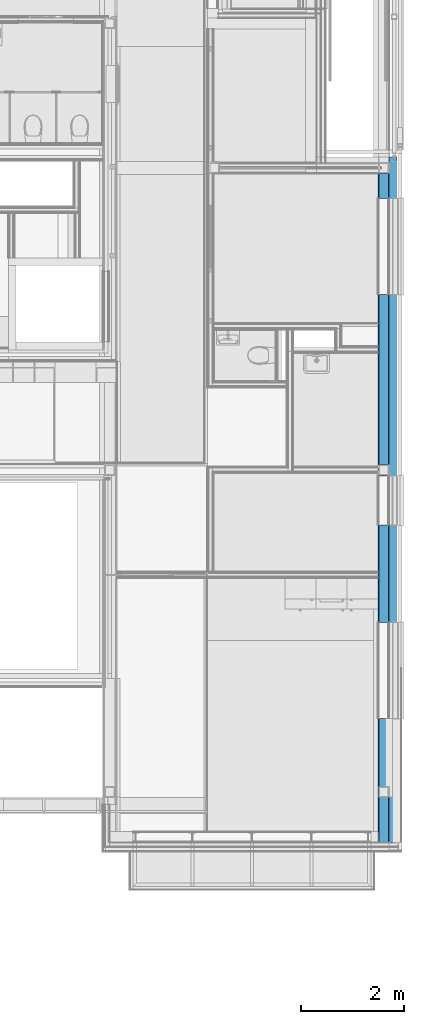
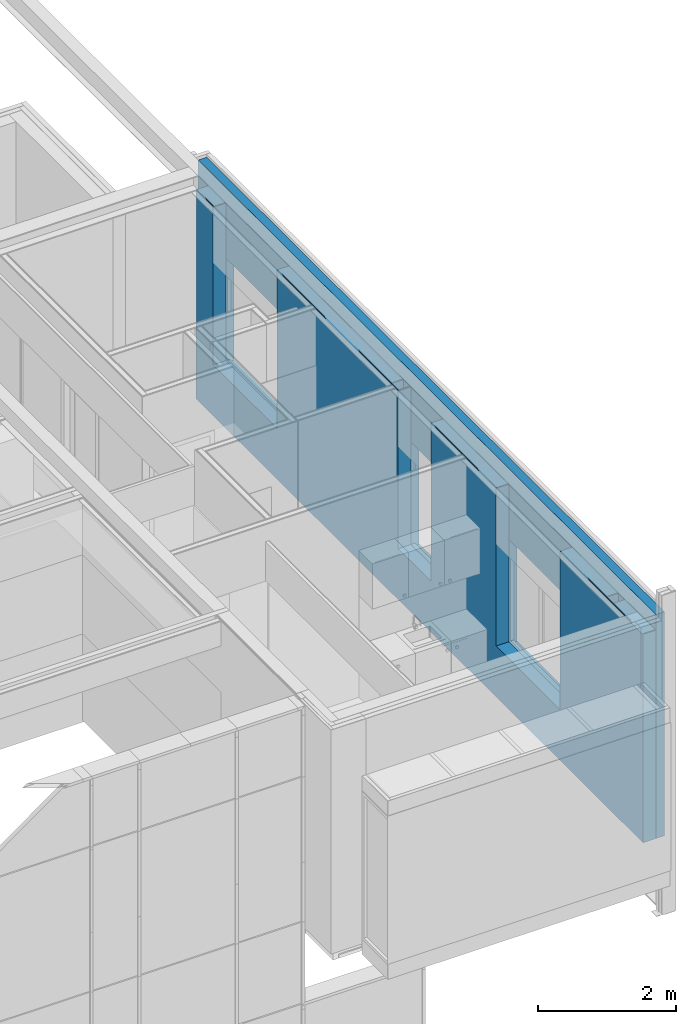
# One storey, part 71 of 137: 2 building element parts, 3 openings, 1 element without a shape of its own.
"""IFC2X3 building model written with IfcOpenShell, lengths in millimetres."""

from ifc_helpers import new_model, entity, si_unit, converted_unit, derived_unit, money_unit, direction, frame, origin_with_axes, place, context, subcontext, project, spatial, faceted_brep, material, type_object, element, aggregate, save


model = new_model("IFC2X3")

# Units and contexts
model_context = context("Model", 3, precision=0.01, world=origin_with_axes(), true_north=direction((0.0, 1.0)))
body_context = subcontext(model_context, "Body", "Model", "MODEL_VIEW")
ifc_project = project(units=[si_unit("LENGTHUNIT", "METRE", prefix="MILLI"), si_unit("AREAUNIT", "SQUARE_METRE"), si_unit("VOLUMEUNIT", "CUBIC_METRE"), converted_unit("PLANEANGLEUNIT", "DEGREE", entity("IfcPlaneAngleMeasure", 0.0174532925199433), si_unit("PLANEANGLEUNIT", "RADIAN"), dimensions=[0, 0, 0, 0, 0, 0, 0]), money_unit("EUR"), converted_unit("TIMEUNIT", "Year", entity("IfcTimeMeasure", 31556926.0), si_unit("TIMEUNIT", "SECOND"), dimensions=[0, 0, 1, 0, 0, 0, 0]), si_unit("MASSUNIT", "GRAM", prefix="KILO"), si_unit("THERMODYNAMICTEMPERATUREUNIT", "DEGREE_CELSIUS"), si_unit("LUMINOUSINTENSITYUNIT", "LUMEN"), si_unit("ENERGYUNIT", "JOULE", prefix="MEGA"), derived_unit("THERMALCONDUCTANCEUNIT", [(si_unit("POWERUNIT", "WATT"), 1), (si_unit("LENGTHUNIT", "METRE"), -1), (si_unit("THERMODYNAMICTEMPERATUREUNIT", "KELVIN"), -1)]), derived_unit("SPECIFICHEATCAPACITYUNIT", [(si_unit("ENERGYUNIT", "JOULE"), 1), (si_unit("MASSUNIT", "GRAM", prefix="KILO"), -1), (si_unit("THERMODYNAMICTEMPERATUREUNIT", "KELVIN"), -1)]), derived_unit("MASSDENSITYUNIT", [(si_unit("MASSUNIT", "GRAM", prefix="KILO"), 1), (si_unit("VOLUMEUNIT", "CUBIC_METRE"), -1)])], contexts=[model_context])

# Site, building, storey
site_placement = place(None, origin_with_axes())
site = spatial("IfcSite", under=ifc_project, at=site_placement, Name="Site", CompositionType="ELEMENT")
building_placement = place(site_placement, origin_with_axes())
building = spatial("IfcBuilding", under=site, at=building_placement, Name="Naam gebouw", CompositionType="ELEMENT")
storey_placement = place(building_placement, frame((0.0, 0.0, 3960.0), z_axis=(0.0, 0.0, 1.0), x_axis=(1.0, 0.0, 0.0)))
storey = spatial("IfcBuildingStorey", under=building, at=storey_placement, Name="1e verdieping", CompositionType="ELEMENT", Elevation=3960.0)

# Wall, openings, building element parts
wall_type = type_object("IfcWallType", Name="21 Buitenwand spouwmuur 464", PredefinedType="NOTDEFINED")
wall_placement = place(storey_placement, frame((29899.99999999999, 16749.99778166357, -100.0000000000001), z_axis=(0.0, 0.0, 1.0), x_axis=(0.0, -1.0, 0.0)))
wall = element("IfcWall", 1, at=wall_placement, inside=storey, type_object=wall_type, Name="21_Wand-x")
opening_1_placement = place(wall_placement, frame((1619.000000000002, 0.0, 899.9999999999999), z_axis=(0.0, 0.0, 1.0), x_axis=(1.0, 0.0, 0.0)))
element("IfcOpeningElement", 2, at=opening_1_placement, cuts=wall, Name="_Merk BD", context=body_context, shape_type="Brep", body=[
    faceted_brep([(925.0000000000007, 0.0, 1810.0), (-925.0000000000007, 0.0, 1810.0), (-925.0000000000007, 0.0, 2810.0), (925.0000000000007, 0.0, 2810.0), (925.0000000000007, 71.99999999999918, 1810.0), (-925.0000000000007, 71.99999999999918, 1810.0), (-925.0000000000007, 0.0, 0.0), (-925.0000000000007, -214.9999999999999, 0.0), (-925.0000000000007, -214.9999999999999, 2810.0), (925.0000000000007, -214.9999999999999, 2810.0), (925.0000000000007, 0.0, 0.0), (925.0000000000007, -214.9999999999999, 0.0), (925.0000000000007, 71.99999999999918, 0.0), (935.0000000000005, 71.99999999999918, 1810.0), (935.0000000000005, 251.0000000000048, 1810.0), (-935.0000000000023, 251.0000000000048, 1810.0), (-935.0000000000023, 71.99999999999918, 1810.0), (-925.0000000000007, 71.99999999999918, 0.0), (-935.0000000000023, 71.99999999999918, -44.99999999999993), (935.0000000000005, 71.99999999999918, -44.99999999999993), (935.0000000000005, 251.0000000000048, -44.99999999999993), (-935.0000000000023, 251.0000000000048, -44.99999999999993)], [[[0, 1, 2, 3]], [[1, 0, 4, 5]], [[1, 6, 7, 8, 2]], [[3, 2, 8, 9]], [[10, 0, 3, 9, 11]], [[0, 10, 12, 4]], [[5, 4, 13, 14, 15, 16]], [[6, 1, 5, 17]], [[10, 11, 7, 6, 17, 12]], [[8, 7, 11, 9]], [[17, 5, 16, 18, 19, 13, 4, 12]], [[13, 19, 20, 14]], [[14, 20, 21, 15]], [[18, 16, 15, 21]], [[19, 18, 21, 20]]]),
])
opening_2_placement = place(wall_placement, frame((9819.0, 0.0, 899.9999999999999), z_axis=(0.0, 0.0, 1.0), x_axis=(1.0, 0.0, 0.0)))
element("IfcOpeningElement", 3, at=opening_2_placement, cuts=wall, Name="_Merk BD", context=body_context, shape_type="Brep", body=[
    faceted_brep([(924.9999999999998, 0.0, 1810.0), (-924.9999999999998, 0.0, 1810.0), (-924.9999999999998, 0.0, 2810.0), (924.9999999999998, 0.0, 2810.0), (924.9999999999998, 71.99999999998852, 1810.0), (-924.9999999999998, 71.99999999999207, 1810.0), (-924.9999999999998, 0.0, 0.0), (-924.9999999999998, -215.0000000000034, 0.0), (-924.9999999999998, -215.0000000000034, 2810.0), (924.9999999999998, -215.000000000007, 2810.0), (924.9999999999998, 0.0, 0.0), (924.9999999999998, -215.000000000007, 0.0), (924.9999999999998, 71.99999999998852, 0.0), (935.0000000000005, 71.99999999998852, 1810.0), (935.0000000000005, 250.9999999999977, 1810.0), (-934.9999999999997, 251.0000000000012, 1810.0), (-934.9999999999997, 71.99999999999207, 1810.0), (-924.9999999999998, 71.99999999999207, 0.0), (-934.9999999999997, 71.99999999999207, -44.99999999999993), (935.0000000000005, 71.99999999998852, -44.99999999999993), (935.0000000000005, 250.9999999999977, -44.99999999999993), (-934.9999999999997, 251.0000000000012, -44.99999999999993)], [[[0, 1, 2, 3]], [[1, 0, 4, 5]], [[1, 6, 7, 8, 2]], [[3, 2, 8, 9]], [[10, 0, 3, 9, 11]], [[0, 10, 12, 4]], [[5, 4, 13, 14, 15, 16]], [[6, 1, 5, 17]], [[10, 11, 7, 6, 17, 12]], [[8, 7, 11, 9]], [[17, 5, 16, 18, 19, 13, 4, 12]], [[13, 19, 20, 14]], [[14, 20, 21, 15]], [[18, 16, 15, 21]], [[19, 18, 21, 20]]]),
])
opening_3_placement = place(wall_placement, frame((6529.997671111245, 0.0, 899.9999999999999), z_axis=(0.0, 0.0, 1.0), x_axis=(1.0, 0.0, 0.0)))
element("IfcOpeningElement", 4, at=opening_3_placement, cuts=wall, Name="_Merk BE", context=body_context, shape_type="Brep", body=[
    faceted_brep([(474.9999999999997, 0.0, 1810.0), (-474.9999999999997, 0.0, 1810.0), (-474.9999999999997, 0.0, 2810.0), (474.9999999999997, 0.0, 2810.0), (474.9999999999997, 71.99999999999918, 1810.0), (-474.9999999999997, 71.99999999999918, 1810.0), (-474.9999999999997, 0.0, 0.0), (-474.9999999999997, -214.9999999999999, 0.0), (-474.9999999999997, -214.9999999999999, 2810.0), (474.9999999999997, -214.9999999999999, 2810.0), (474.9999999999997, 0.0, 0.0), (474.9999999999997, -214.9999999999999, 0.0), (474.9999999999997, 71.99999999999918, 0.0), (484.9999999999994, 71.99999999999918, 1810.0), (484.9999999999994, 251.0000000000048, 1810.0), (-484.9999999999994, 251.0000000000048, 1810.0), (-484.9999999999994, 71.99999999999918, 1810.0), (-474.9999999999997, 71.99999999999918, 0.0), (-484.9999999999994, 71.99999999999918, -44.99999999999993), (484.9999999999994, 71.99999999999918, -44.99999999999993), (484.9999999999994, 251.0000000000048, -44.99999999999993), (-484.9999999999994, 251.0000000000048, -44.99999999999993)], [[[0, 1, 2, 3]], [[1, 0, 4, 5]], [[1, 6, 7, 8, 2]], [[3, 2, 8, 9]], [[10, 0, 3, 9, 11]], [[0, 10, 12, 4]], [[5, 4, 13, 14, 15, 16]], [[6, 1, 5, 17]], [[10, 11, 7, 6, 17, 12]], [[8, 7, 11, 9]], [[17, 5, 16, 18, 19, 13, 4, 12]], [[13, 19, 20, 14]], [[14, 20, 21, 15]], [[18, 16, 15, 21]], [[19, 18, 21, 20]]]),
])
ifc_material_1 = material(Name="Isolatie - Steenwol zacht")
building_element_part_1_placement = place(wall_placement, origin_with_axes())
building_element_part_1 = element("IfcBuildingElementPart", 5, at=building_element_part_1_placement, material=ifc_material_1, Name="Isolatie - Steenwol zacht", context=body_context, shape_type="Brep", body=[
    faceted_brep([(13149.99778255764, 138.0000473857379, 3960.000001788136), (13153.99778106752, 138.0000473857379, 3960.0), (13153.99781102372, 144.999999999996, 3960.0), (-109.9999999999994, 144.9999999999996, 3960.0), (-109.9999999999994, 0.9999995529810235, 3960.000001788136), (13149.99778255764, 0.9999995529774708, 3960.000001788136), (13149.99778255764, 138.0000473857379, 0.0), (13153.99778106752, 138.0000473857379, 0.0), (13153.99781102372, 144.999999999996, 0.0), (-109.9999999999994, 144.9999999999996, 820.0000000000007), (0.0, 144.9999999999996, 820.0000000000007), (0.0, 144.9999999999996, 825.0000000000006), (-109.9999999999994, 144.9999999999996, 825.0000000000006), (-25.00206540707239, 144.9999999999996, 0.0), (-25.00206540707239, 144.9999999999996, 725.000000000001), (0.0, 144.9999999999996, 725.000000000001), (0.0, 144.9999999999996, 730.0000000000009), (-109.9999999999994, 144.9999999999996, 730.0000000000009), (2554.000000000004, 144.9999999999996, 855.0), (2554.000000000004, 144.9999999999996, 2710.0), (684.000000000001, 144.9999999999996, 2710.0), (684.000000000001, 144.9999999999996, 855.0), (8884.000000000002, 144.9999999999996, 2710.0), (8884.000000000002, 144.9999999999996, 855.0), (10754.0, 144.999999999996, 855.0), (10754.0, 144.999999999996, 2710.0), (7014.997671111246, 144.9999999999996, 855.0), (7014.997671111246, 144.9999999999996, 2710.0), (6044.997671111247, 144.9999999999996, 2710.0), (6044.997671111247, 144.9999999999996, 855.0), (-109.9999999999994, 0.0, 0.0), (-109.9999999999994, 0.0, 3685.000001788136), (-109.9999999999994, 15.99999955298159, 3685.000001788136), (-109.9999999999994, 15.99999955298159, 3695.000001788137), (-109.9999999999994, 0.9999995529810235, 3695.000001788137), (-109.9999999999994, 49.99999999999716, 825.0000000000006), (-109.9999999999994, 49.99999999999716, 0.0), (13149.99778255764, 0.9999995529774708, 3695.000001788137), (13149.99778255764, 15.99999955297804, 3695.000001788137), (13149.99778255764, 15.99999955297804, 3685.000001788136), (13149.99778255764, 0.0, 3685.000001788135), (13149.99778255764, 0.0, 0.0), (-25.00206540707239, 49.99999999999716, 0.0), (-109.9999999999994, 54.99999999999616, 820.0000000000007), (0.0, 54.99999999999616, 820.0000000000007), (0.0, 49.99999999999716, 725.000000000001), (0.0, 49.99999999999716, 825.0000000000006), (0.0, 54.99999999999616, 730.0000000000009), (-25.00206540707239, 49.99999999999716, 725.000000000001), (-109.9999999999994, 54.99999999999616, 730.0000000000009), (2554.000000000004, 71.99999999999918, 855.0), (2554.000000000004, 71.99999999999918, 2710.0), (2544.000000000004, 71.99999999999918, 2710.0), (694.0000000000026, 71.99999999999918, 2710.0), (684.000000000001, 71.99999999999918, 2710.0), (684.000000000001, 71.99999999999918, 855.0), (8884.000000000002, 71.99999999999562, 2710.0), (8884.000000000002, 71.99999999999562, 855.0), (10754.0, 71.99999999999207, 855.0), (10754.0, 71.99999999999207, 2710.0), (10744.0, 71.99999999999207, 2710.0), (8894.000000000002, 71.99999999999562, 2710.0), (7014.997671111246, 71.99999999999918, 855.0), (7014.997671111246, 71.99999999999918, 2710.0), (7004.997671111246, 71.99999999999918, 2710.0), (6054.997671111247, 71.99999999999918, 2710.0), (6044.997671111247, 71.99999999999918, 2710.0), (6044.997671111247, 71.99999999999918, 855.0), (2544.000000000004, 0.0, 2710.0), (2544.000000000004, 0.0, 899.9999999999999), (694.0000000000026, 0.0, 899.9999999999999), (694.0000000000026, 0.0, 2710.0), (8894.000000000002, 0.0, 899.9999999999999), (8894.000000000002, 0.0, 2710.0), (10744.0, 0.0, 2710.0), (10744.0, 0.0, 899.9999999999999), (7004.997671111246, 0.0, 2710.0), (7004.997671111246, 0.0, 899.9999999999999), (6054.997671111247, 0.0, 899.9999999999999), (6054.997671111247, 0.0, 2710.0), (694.0000000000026, 71.99999999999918, 899.9999999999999), (2544.000000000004, 71.99999999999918, 899.9999999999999), (8894.000000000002, 71.99999999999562, 899.9999999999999), (10744.0, 71.99999999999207, 899.9999999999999), (6054.997671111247, 71.99999999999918, 899.9999999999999), (7004.997671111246, 71.99999999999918, 899.9999999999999)], [[[0, 1, 2, 3, 4, 5]], [[1, 0, 6, 7]], [[1, 7, 8, 2]], [[9, 10, 11, 12, 3, 2, 8, 13, 14, 15, 16, 17], [18, 19, 20, 21], [22, 23, 24, 25], [26, 27, 28, 29]], [[30, 31, 32, 33, 34, 4, 3, 12, 35, 36]], [[37, 5, 4, 34]], [[0, 5, 37, 38, 39, 40, 41, 6]], [[6, 41, 30, 36, 42, 13, 8, 7]], [[10, 9, 43, 44]], [[16, 15, 45, 46, 11, 10, 44, 47]], [[35, 12, 11, 46]], [[14, 13, 42, 48]], [[48, 45, 15, 14]], [[49, 17, 16, 47]], [[43, 9, 17, 49]], [[19, 18, 50, 51]], [[51, 52, 53, 54, 20, 19]], [[21, 20, 54, 55]], [[18, 21, 55, 50]], [[56, 57, 23, 22]], [[57, 58, 24, 23]], [[58, 59, 25, 24]], [[59, 60, 61, 56, 22, 25]], [[27, 26, 62, 63]], [[63, 64, 65, 66, 28, 27]], [[29, 28, 66, 67]], [[26, 29, 67, 62]], [[41, 40, 31, 30], [68, 69, 70, 71], [72, 73, 74, 75], [76, 77, 78, 79]], [[40, 39, 32, 31]], [[39, 38, 33, 32]], [[38, 37, 34, 33]], [[45, 48, 42, 36, 35, 46]], [[43, 49, 47, 44]], [[50, 55, 54, 53, 80, 81, 52, 51]], [[71, 53, 52, 68]], [[60, 59, 58, 57, 56, 61, 82, 83]], [[60, 74, 73, 61]], [[84, 85, 64, 63, 62, 67, 66, 65]], [[79, 65, 64, 76]], [[68, 52, 81, 69]], [[69, 81, 80, 70]], [[70, 80, 53, 71]], [[61, 73, 72, 82]], [[83, 75, 74, 60]], [[82, 72, 75, 83]], [[76, 64, 85, 77]], [[77, 85, 84, 78]], [[78, 84, 65, 79]]]),
    faceted_brep([(-109.9999999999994, 54.99999999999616, 725.000000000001), (-30.0020654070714, 54.99999999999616, 725.000000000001), (-30.0020654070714, 144.9999999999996, 725.000000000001), (-109.9999999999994, 144.9999999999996, 725.000000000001), (-109.9999999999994, 54.99999999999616, 0.0), (-30.0020654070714, 54.99999999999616, 0.0), (-30.0020654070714, 144.9999999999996, 0.0), (-109.9999999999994, 144.9999999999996, 0.0), (-109.9999999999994, 65.00000000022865, 702.217493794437), (-109.9999999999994, 65.00000000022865, 692.9720122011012), (-109.9999999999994, 135.0000000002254, 692.9720122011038), (-109.9999999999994, 135.0000000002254, 702.2174937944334), (-109.9999999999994, 130.0000000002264, 702.2174937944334), (-109.9999999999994, 130.0000000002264, 698.9586845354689), (-109.9999999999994, 70.00000000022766, 698.9586845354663), (-109.9999999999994, 70.00000000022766, 702.2174937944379), (-105.7533337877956, 65.00000000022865, 695.7684018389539), (-105.7533337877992, 135.0000000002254, 695.7684018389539), (-108.5031525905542, 130.0000000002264, 699.9443444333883), (-108.5031525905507, 70.00000000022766, 699.9443444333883)], [[[0, 1, 2, 3]], [[1, 0, 4, 5]], [[6, 2, 1, 5]], [[2, 6, 7, 3]], [[4, 0, 3, 7], [8, 9, 10, 11, 12, 13, 14, 15]], [[5, 4, 7, 6]], [[16, 9, 8]], [[17, 10, 9, 16]], [[17, 11, 10]], [[18, 12, 11, 17, 16, 8, 15, 19]], [[18, 13, 12]], [[19, 14, 13, 18]], [[19, 15, 14]]]),
])
ifc_material_2 = material(Name="Steen - Kalkzandsteen C")
building_element_part_2_placement = place(wall_placement, origin_with_axes())
building_element_part_2 = element("IfcBuildingElementPart", 6, at=building_element_part_2_placement, material=ifc_material_2, Name="Steen - Kalkzandsteen C", context=body_context, shape_type="Brep", body=[
    faceted_brep([(2544.000000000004, -213.9999999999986, 3685.000001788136), (6054.997671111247, -214.0000000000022, 3685.000001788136), (6054.997671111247, 0.0, 3685.000001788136), (6039.997671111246, 0.0, 3685.000001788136), (6039.997671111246, -199.9999999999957, 3685.000001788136), (5839.997671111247, -199.9999999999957, 3685.000001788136), (5839.997671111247, 0.0, 3685.000001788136), (2544.000000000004, 0.0, 3685.000001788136), (7004.997671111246, -214.0000000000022, 899.9999999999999), (6054.997671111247, -214.0000000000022, 899.9999999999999), (2544.000000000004, -214.0000000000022, 899.9999999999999), (694.0000000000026, -214.0000000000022, 899.9999999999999), (694.0000000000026, -213.9999999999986, 3685.000001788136), (202.0000000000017, -213.9999999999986, 3685.000001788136), (202.0000000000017, -213.9999999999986, 0.0), (13149.99773833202, -214.0000000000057, 0.0), (13149.99778166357, -214.0000000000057, 3685.000001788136), (10744.0, -214.0000000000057, 3685.000001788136), (10744.0, -214.0000000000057, 899.9999999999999), (8894.000000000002, -214.0000000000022, 899.9999999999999), (8894.000000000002, -214.0000000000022, 3685.000001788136), (7004.997671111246, -214.0000000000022, 3685.000001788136), (6054.997671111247, 0.0, 899.9999999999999), (7004.997671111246, 0.0, 899.9999999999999), (7004.997671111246, 0.0, 3685.000001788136), (8894.000000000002, 0.0, 3685.000001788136), (8894.000000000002, 0.0, 899.9999999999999), (10744.0, 0.0, 899.9999999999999), (10744.0, 0.0, 3685.000001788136), (12069.99778166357, 0.0, 3685.000001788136), (12069.99778166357, 0.0, 0.0), (6039.997671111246, 0.0, 0.0), (6039.997671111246, -199.9999999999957, 0.0), (5839.997671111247, -199.9999999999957, 0.0), (5839.997671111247, 0.0, 0.0), (202.0000000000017, 0.0, 0.0), (202.0000000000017, 0.0, 3685.000001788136), (694.0000000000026, 0.0, 3685.000001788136), (694.0000000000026, 0.0, 899.9999999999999), (2544.000000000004, 0.0, 899.9999999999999), (13149.99778166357, 0.0, 0.0), (12069.99778166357, -199.9999999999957, 0.0), (12269.99778166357, -199.9999999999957, 0.0), (12269.99778166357, 0.0, 0.0), (13149.99778166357, 0.0, 3685.000001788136), (12269.99778166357, 0.0, 3685.000001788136), (12269.99778166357, -199.9999999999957, 3685.000001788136), (12069.99778166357, -199.9999999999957, 3685.000001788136)], [[[0, 1, 2, 3, 4, 5, 6, 7]], [[8, 9, 1, 0, 10, 11, 12, 13, 14, 15, 16, 17, 18, 19, 20, 21]], [[9, 22, 2, 1]], [[22, 23, 24, 25, 26, 27, 28, 29, 30, 31, 3, 2]], [[31, 32, 4, 3]], [[32, 33, 5, 4]], [[5, 33, 34, 6]], [[7, 6, 34, 35, 36, 37, 38, 39]], [[7, 39, 10, 0]], [[8, 23, 22, 9]], [[38, 11, 10, 39]], [[37, 12, 11, 38]], [[37, 36, 13, 12]], [[36, 35, 14, 13]], [[40, 15, 14, 35, 34, 33, 32, 31, 30, 41, 42, 43]], [[16, 15, 40, 44]], [[45, 46, 47, 29, 28, 17, 16, 44]], [[17, 28, 27, 18]], [[27, 26, 19, 18]], [[26, 25, 20, 19]], [[25, 24, 21, 20]], [[8, 21, 24, 23]], [[47, 41, 30, 29]], [[42, 41, 47, 46]], [[43, 42, 46, 45]], [[44, 40, 43, 45]]]),
    faceted_brep([(2544.000000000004, -5.000000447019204, 3695.000001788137), (2544.000000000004, -5.000000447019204, 3700.0), (5839.997671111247, -5.000000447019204, 3699.999999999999), (5839.997671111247, -5.000000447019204, 3695.000001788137), (2544.000000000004, -195.0000004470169, 3700.0), (2544.000000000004, -195.0000004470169, 3695.000001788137), (5839.997671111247, -195.0000004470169, 3699.999999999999), (5839.997671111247, -195.0000004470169, 3695.000001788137)], [[[0, 1, 2, 3]], [[4, 1, 0, 5]], [[1, 4, 6, 2]], [[2, 6, 7, 3]], [[5, 0, 3, 7]], [[4, 5, 7, 6]]]),
    faceted_brep([(694.0000000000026, -195.0000004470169, 3700.0), (694.0000000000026, -5.000000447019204, 3700.0), (202.0000000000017, -5.000000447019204, 3700.0), (202.0000000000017, -195.0000004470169, 3700.0), (694.0000000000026, -5.000000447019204, 3695.000001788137), (694.0000000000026, -195.0000004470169, 3695.000001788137), (202.0000000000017, -5.000000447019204, 3695.000001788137), (202.0000000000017, -195.0000004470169, 3695.000001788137)], [[[0, 1, 2, 3]], [[4, 1, 0, 5]], [[1, 4, 6, 2]], [[7, 3, 2, 6]], [[5, 0, 3, 7]], [[4, 5, 7, 6]]]),
    faceted_brep([(12269.99778166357, -5.000000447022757, 3695.000001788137), (12269.99778166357, -5.000000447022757, 3699.999999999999), (13149.99778166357, -5.000000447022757, 3700.0), (13149.99778166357, -5.000000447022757, 3695.000001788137), (12269.99778166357, -195.0000004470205, 3699.999999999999), (12269.99778166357, -195.0000004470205, 3695.000001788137), (13149.99778166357, -195.0000004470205, 3700.0), (13149.99778166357, -195.0000004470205, 3695.000001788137)], [[[0, 1, 2, 3]], [[4, 1, 0, 5]], [[1, 4, 6, 2]], [[7, 3, 2, 6]], [[5, 0, 3, 7]], [[4, 5, 7, 6]]]),
    faceted_brep([(7004.997671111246, -5.000000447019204, 3695.000001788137), (7004.997671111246, -5.000000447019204, 3699.999999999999), (8894.000000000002, -5.000000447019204, 3699.999999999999), (8894.000000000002, -5.000000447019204, 3695.000001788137), (7004.997671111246, -195.0000004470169, 3699.999999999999), (7004.997671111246, -195.0000004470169, 3695.000001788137), (8894.000000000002, -195.0000004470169, 3699.999999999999), (8894.000000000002, -195.0000004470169, 3695.000001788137)], [[[0, 1, 2, 3]], [[4, 1, 0, 5]], [[1, 4, 6, 2]], [[2, 6, 7, 3]], [[5, 0, 3, 7]], [[4, 5, 7, 6]]]),
    faceted_brep([(12069.99778166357, -5.000000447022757, 3699.999999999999), (12069.99778166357, -5.000000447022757, 3695.000001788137), (10744.0, -5.000000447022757, 3695.000001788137), (10744.0, -5.000000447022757, 3699.999999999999), (12069.99778166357, -195.0000004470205, 3695.000001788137), (12069.99778166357, -195.0000004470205, 3699.999999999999), (10744.0, -195.0000004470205, 3695.000001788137), (10744.0, -195.0000004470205, 3699.999999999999)], [[[0, 1, 2, 3]], [[4, 1, 0, 5]], [[1, 4, 6, 2]], [[2, 6, 7, 3]], [[5, 0, 3, 7]], [[4, 5, 7, 6]]]),
    faceted_brep([(6054.997671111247, -195.0000004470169, 3699.999999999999), (6054.997671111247, -5.000000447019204, 3699.999999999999), (6039.997671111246, -5.000000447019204, 3699.999999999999), (6039.997671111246, -195.0000004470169, 3699.999999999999), (6054.997671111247, -5.000000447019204, 3695.000001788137), (6054.997671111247, -195.0000004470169, 3695.000001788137), (6039.997671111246, -5.000000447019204, 3695.000001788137), (6039.997671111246, -195.0000004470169, 3695.000001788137)], [[[0, 1, 2, 3]], [[4, 1, 0, 5]], [[1, 4, 6, 2]], [[6, 7, 3, 2]], [[5, 0, 3, 7]], [[4, 5, 7, 6]]]),
    faceted_brep([(7004.997671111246, -201.0000004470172, 3695.000001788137), (7004.997671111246, -201.0000004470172, 3700.0), (8894.000000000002, -201.0000004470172, 3700.0), (8894.000000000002, -201.0000004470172, 3695.000001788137), (7004.997671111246, -214.0000000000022, 3700.0), (7004.997671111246, -214.0000000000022, 3695.000001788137), (8894.000000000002, -214.0000000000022, 3700.0), (8894.000000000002, -214.0000000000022, 3695.000001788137)], [[[0, 1, 2, 3]], [[4, 1, 0, 5]], [[1, 4, 6, 2]], [[2, 6, 7, 3]], [[5, 0, 3, 7]], [[4, 5, 7, 6]]]),
    faceted_brep([(694.0000000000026, -213.9999999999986, 3700.0), (694.0000000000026, -201.0000004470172, 3700.0), (202.0000000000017, -201.0000004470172, 3700.0), (202.0000000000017, -213.9999999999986, 3700.0), (694.0000000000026, -201.0000004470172, 3695.000001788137), (694.0000000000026, -213.9999999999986, 3695.000001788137), (202.0000000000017, -201.0000004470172, 3695.000001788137), (202.0000000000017, -213.9999999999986, 3695.000001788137)], [[[0, 1, 2, 3]], [[4, 1, 0, 5]], [[1, 4, 6, 2]], [[7, 3, 2, 6]], [[5, 0, 3, 7]], [[4, 5, 7, 6]]]),
    faceted_brep([(13149.99778166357, -201.0000004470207, 3700.0), (13149.99778166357, -201.0000004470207, 3695.000001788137), (10744.0, -201.0000004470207, 3695.000001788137), (10744.0, -201.0000004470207, 3700.0), (13149.99778166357, -214.0000000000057, 3700.0), (13149.99778166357, -214.0000000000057, 3695.000001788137), (10744.0, -214.0000000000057, 3695.000001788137), (10744.0, -214.0000000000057, 3700.0)], [[[0, 1, 2, 3]], [[1, 0, 4, 5]], [[1, 5, 6, 2]], [[2, 6, 7, 3]], [[4, 0, 3, 7]], [[5, 4, 7, 6]]]),
    faceted_brep([(6054.997671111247, -214.0000000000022, 3700.0), (6054.997671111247, -201.0000004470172, 3700.0), (2544.000000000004, -201.0000004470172, 3700.0), (2544.000000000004, -213.9999999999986, 3700.0), (6054.997671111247, -201.0000004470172, 3695.000001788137), (6054.997671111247, -214.0000000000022, 3695.000001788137), (2544.000000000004, -201.0000004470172, 3695.000001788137), (2544.000000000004, -213.9999999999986, 3695.000001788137)], [[[0, 1, 2, 3]], [[4, 1, 0, 5]], [[1, 4, 6, 2]], [[6, 7, 3, 2]], [[5, 0, 3, 7]], [[4, 5, 7, 6]]]),
])
aggregate(wall, [building_element_part_1, building_element_part_2])

save(model, "model.ifc")
